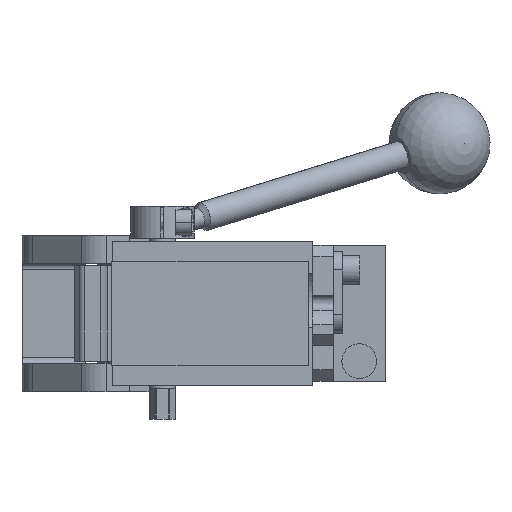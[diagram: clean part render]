
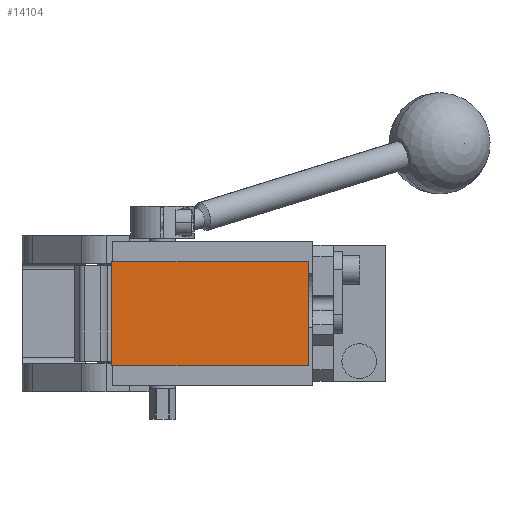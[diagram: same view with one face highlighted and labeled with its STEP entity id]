
A CAD part, front view. The second image highlights one B-rep face of the part: STEP entity #14104.
In plain terms, the highlighted planar face has unit normal (0, -1, 0).
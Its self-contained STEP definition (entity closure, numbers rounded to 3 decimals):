
#480 = VECTOR ( 'NONE', #2157, 1000. ) ;
#490 = VERTEX_POINT ( 'NONE', #11127 ) ;
#2157 = DIRECTION ( 'NONE',  ( 0., 0., 1. ) ) ;
#2404 = CARTESIAN_POINT ( 'NONE',  ( -6., -233., 18. ) ) ;
#2729 = AXIS2_PLACEMENT_3D ( 'NONE', #9236, #14626, #5536 ) ;
#3076 = ORIENTED_EDGE ( 'NONE', *, *, #8959, .T. ) ;
#4101 = DIRECTION ( 'NONE',  ( 0., 0., -1. ) ) ;
#4965 = CARTESIAN_POINT ( 'NONE',  ( -6., -233., -18. ) ) ;
#5137 = VERTEX_POINT ( 'NONE', #15259 ) ;
#5536 = DIRECTION ( 'NONE',  ( 0., 0., -1. ) ) ;
#6044 = CARTESIAN_POINT ( 'NONE',  ( 62., -233., 18. ) ) ;
#6404 = LINE ( 'NONE', #4965, #14150 ) ;
#6479 = PLANE ( 'NONE',  #2729 ) ;
#6540 = ORIENTED_EDGE ( 'NONE', *, *, #12436, .T. ) ;
#6742 = EDGE_CURVE ( 'NONE', #490, #13919, #9925, .T. ) ;
#7595 = DIRECTION ( 'NONE',  ( -1., 0., 0. ) ) ;
#8959 = EDGE_CURVE ( 'NONE', #14537, #5137, #11628, .T. ) ;
#9081 = ORIENTED_EDGE ( 'NONE', *, *, #15485, .T. ) ;
#9232 = CARTESIAN_POINT ( 'NONE',  ( -6., -233., 18. ) ) ;
#9236 = CARTESIAN_POINT ( 'NONE',  ( 0., -233., 0. ) ) ;
#9725 = ORIENTED_EDGE ( 'NONE', *, *, #6742, .T. ) ;
#9925 = LINE ( 'NONE', #6044, #480 ) ;
#11127 = CARTESIAN_POINT ( 'NONE',  ( 62., -233., -18. ) ) ;
#11628 = LINE ( 'NONE', #9232, #15686 ) ;
#11990 = FACE_OUTER_BOUND ( 'NONE', #12490, .T. ) ;
#12436 = EDGE_CURVE ( 'NONE', #5137, #490, #6404, .T. ) ;
#12490 = EDGE_LOOP ( 'NONE', ( #3076, #6540, #9725, #9081 ) ) ;
#12775 = DIRECTION ( 'NONE',  ( 1., 0., 0. ) ) ;
#13615 = CARTESIAN_POINT ( 'NONE',  ( 62., -233., 18. ) ) ;
#13919 = VERTEX_POINT ( 'NONE', #13615 ) ;
#14104 = ADVANCED_FACE ( 'NONE', ( #11990 ), #6479, .T. ) ;
#14110 = LINE ( 'NONE', #2404, #14280 ) ;
#14150 = VECTOR ( 'NONE', #12775, 1000. ) ;
#14280 = VECTOR ( 'NONE', #7595, 1000. ) ;
#14537 = VERTEX_POINT ( 'NONE', #15961 ) ;
#14626 = DIRECTION ( 'NONE',  ( 0., -1., 0. ) ) ;
#15259 = CARTESIAN_POINT ( 'NONE',  ( -6., -233., -18. ) ) ;
#15485 = EDGE_CURVE ( 'NONE', #13919, #14537, #14110, .T. ) ;
#15686 = VECTOR ( 'NONE', #4101, 1000. ) ;
#15961 = CARTESIAN_POINT ( 'NONE',  ( -6., -233., 18. ) ) ;
